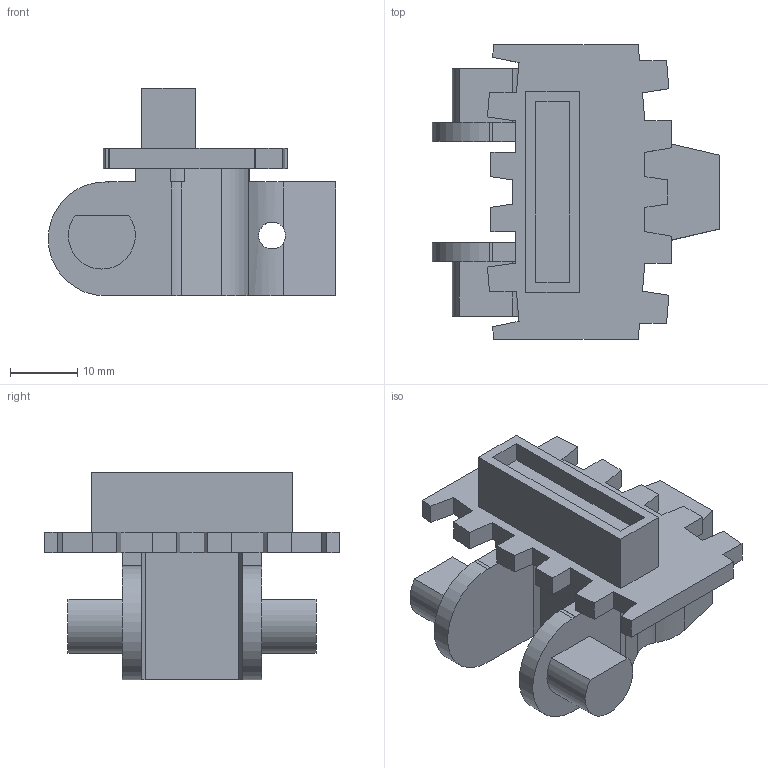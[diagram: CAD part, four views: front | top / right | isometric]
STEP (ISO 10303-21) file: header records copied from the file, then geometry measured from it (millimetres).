
FILE_DESCRIPTION (( 'STEP AP214' ), '1' );
FILE_NAME ('FKTF 5x9D-P.STEP', '2011-09-28T07:10:29', ( '.' ), ( '' ), 'SwSTEP 2.0', 'SolidWorks 2010', '' );
FILE_SCHEMA (( 'AUTOMOTIVE_DESIGN' ));
Length unit declared in the file: millimetre
Products named in the file (1): FKTF 5x9D-P
Bounding box: 42.9 x 44 x 31 mm (x, y, z)
Volume: 13589.8 mm3; surface area: 7296.6 mm2
Topology: 1 solids, 1 shells, 102 faces, 291 edges, 194 vertices
Faces by surface type: plane 85, cylinder 17
Entity records: 3405 total; most frequent: CARTESIAN_POINT 686, ORIENTED_EDGE 582, DIRECTION 521, EDGE_CURVE 291, VECTOR 251, LINE 251, VERTEX_POINT 194, AXIS2_PLACEMENT_3D 135
